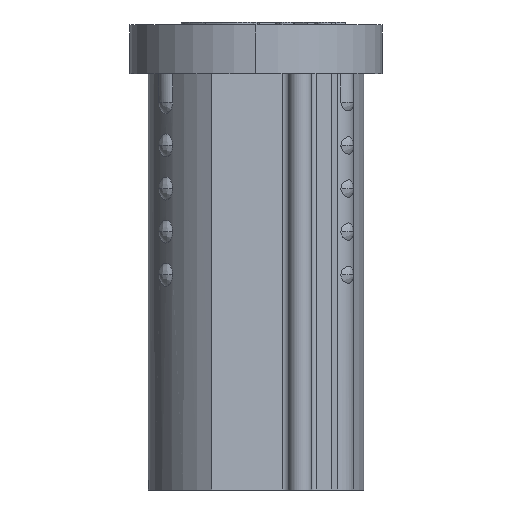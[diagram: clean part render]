
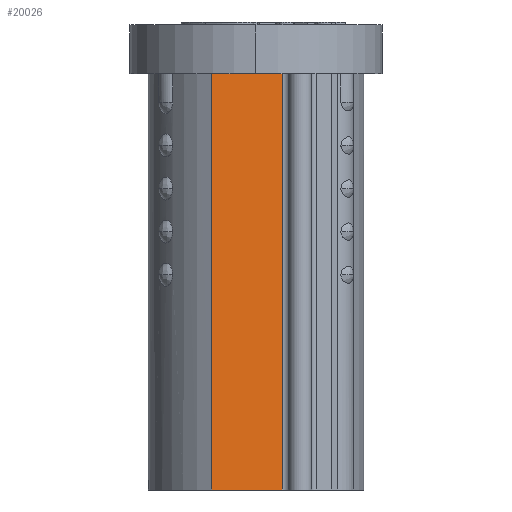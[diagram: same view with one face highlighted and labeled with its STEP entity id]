
A CAD part, left-side view. The second image highlights one B-rep face of the part: STEP entity #20026.
In plain terms, the highlighted planar face has unit normal (-0.985, -0.174, 0).
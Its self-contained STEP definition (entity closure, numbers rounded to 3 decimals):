
#15756=CARTESIAN_POINT(' ',(-3.419,1.54,0.));
#15757=VERTEX_POINT(' ',#15756);
#15771=CARTESIAN_POINT(' ',(-2.985,-0.922,0.));
#15776=DIRECTION(' ',(-0.174,0.985,0.));
#15781=VECTOR(' ',#15776,1.);
#15786=LINE('',#15771,#15781);
#15791=CARTESIAN_POINT(' ',(-2.985,-0.922,0.));
#15792=VERTEX_POINT(' ',#15791);
#15796=EDGE_CURVE(' ',#15792,#15757,#15786,.T.);
#19781=CARTESIAN_POINT(' ',(-2.985,-0.922,-14.5));
#19786=DIRECTION(' ',(0.,0.,1.));
#19791=VECTOR(' ',#19786,1.);
#19796=LINE('',#19781,#19791);
#19801=CARTESIAN_POINT(' ',(-2.985,-0.922,-14.5));
#19802=VERTEX_POINT(' ',#19801);
#19806=EDGE_CURVE(' ',#19802,#15792,#19796,.T.);
#19916=CARTESIAN_POINT(' ',(-2.985,-0.922,-14.5));
#19921=DIRECTION(' ',(-0.985,-0.174,0.));
#19926=DIRECTION(' ',(0.,0.,1.));
#19931=AXIS2_PLACEMENT_3D(' ',#19916,#19921,#19926);
#19936=PLANE(' ',#19931);
#19941=ORIENTED_EDGE(' ',*,*,#15796,.T.);
#19946=CARTESIAN_POINT(' ',(-3.419,1.54,-14.5));
#19951=DIRECTION(' ',(0.,0.,1.));
#19956=VECTOR(' ',#19951,1.);
#19961=LINE('',#19946,#19956);
#19966=CARTESIAN_POINT(' ',(-3.419,1.54,-14.5));
#19967=VERTEX_POINT(' ',#19966);
#19971=EDGE_CURVE(' ',#19967,#15757,#19961,.T.);
#19976=ORIENTED_EDGE(' ',*,*,#19971,.F.);
#19981=CARTESIAN_POINT(' ',(-2.985,-0.922,-14.5));
#19986=DIRECTION(' ',(-0.174,0.985,0.));
#19991=VECTOR(' ',#19986,1.);
#19996=LINE('',#19981,#19991);
#20001=EDGE_CURVE(' ',#19802,#19967,#19996,.T.);
#20006=ORIENTED_EDGE(' ',*,*,#20001,.F.);
#20011=ORIENTED_EDGE(' ',*,*,#19806,.T.);
#20016=EDGE_LOOP(' ',(#19941,#19976,#20006,#20011));
#20021=FACE_OUTER_BOUND(' ',#20016,.T.);
#20026=ADVANCED_FACE('',(#20021),#19936,.T.);
